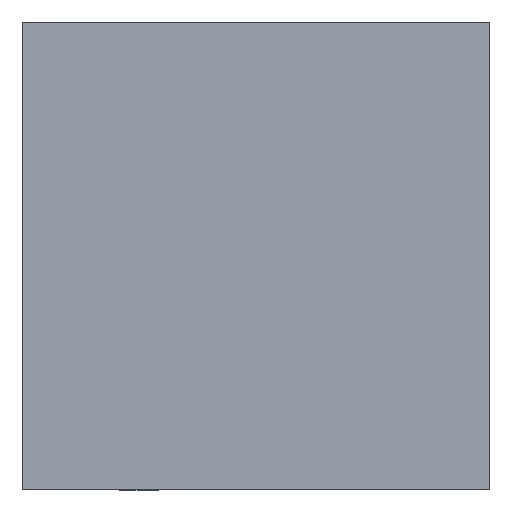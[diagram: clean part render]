
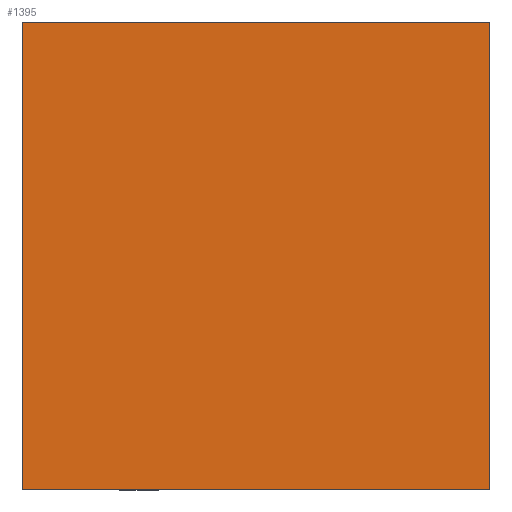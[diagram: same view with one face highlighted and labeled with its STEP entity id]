
A CAD part, top view. The second image highlights one B-rep face of the part: STEP entity #1395.
In plain terms, the highlighted planar face has unit normal (0, 0, 1).
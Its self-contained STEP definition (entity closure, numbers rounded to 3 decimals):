
#85 = DIRECTION ( 'NONE',  ( 0., 0., 1. ) ) ;
#105 = CARTESIAN_POINT ( 'NONE',  ( -0.549, 3.351, 2.873 ) ) ;
#151 = VERTEX_POINT ( 'NONE', #3339 ) ;
#187 = CARTESIAN_POINT ( 'NONE',  ( 2.451, 3.351, 2.873 ) ) ;
#218 = VECTOR ( 'NONE', #742, 1000. ) ;
#286 = ORIENTED_EDGE ( 'NONE', *, *, #807, .T. ) ;
#419 = AXIS2_PLACEMENT_3D ( 'NONE', #105, #85, #1933 ) ;
#457 = EDGE_CURVE ( 'Defeatured_0_10+Defeatured_0_5+Defeatured_0_8+Defeatured_0_6', #151, #2781, #1945, .T. ) ;
#591 = ORIENTED_EDGE ( 'NONE', *, *, #1230, .T. ) ;
#742 = DIRECTION ( 'NONE',  ( 0., 1., 0. ) ) ;
#803 = DIRECTION ( 'NONE',  ( 1., 0., 0. ) ) ;
#807 = EDGE_CURVE ( 'Defeatured_0_10+Defeatured_0_6+Defeatured_0_5+Defeatured_0_7', #2781, #2528, #3289, .T. ) ;
#1008 = VECTOR ( 'NONE', #2596, 1000. ) ;
#1230 = EDGE_CURVE ( 'Defeatured_0_10+Defeatured_0_8+Defeatured_0_7+Defeatured_0_5', #1969, #151, #3404, .T. ) ;
#1241 = CARTESIAN_POINT ( 'NONE',  ( -0.549, 3.351, 2.873 ) ) ;
#1261 = EDGE_LOOP ( 'NONE', ( #1399, #286, #1967, #591 ) ) ;
#1395 = ADVANCED_FACE ( 'Defeatured_0_10', ( #2770 ), #2092, .T. ) ;
#1399 = ORIENTED_EDGE ( 'NONE', *, *, #457, .T. ) ;
#1483 = CARTESIAN_POINT ( 'NONE',  ( -0.549, 3.351, 2.873 ) ) ;
#1933 = DIRECTION ( 'NONE',  ( 1., 0., 0. ) ) ;
#1945 = LINE ( 'NONE', #1241, #1008 ) ;
#1967 = ORIENTED_EDGE ( 'NONE', *, *, #3112, .T. ) ;
#1969 = VERTEX_POINT ( 'NONE', #187 ) ;
#2092 = PLANE ( 'NONE',  #419 ) ;
#2259 = CARTESIAN_POINT ( 'NONE',  ( -0.549, 0.351, 2.873 ) ) ;
#2297 = LINE ( 'NONE', #3138, #218 ) ;
#2528 = VERTEX_POINT ( 'NONE', #3423 ) ;
#2596 = DIRECTION ( 'NONE',  ( 0., -1., 0. ) ) ;
#2622 = VECTOR ( 'NONE', #2877, 1000. ) ;
#2770 = FACE_OUTER_BOUND ( 'NONE', #1261, .T. ) ;
#2781 = VERTEX_POINT ( 'NONE', #2259 ) ;
#2877 = DIRECTION ( 'NONE',  ( -1., 0., 0. ) ) ;
#3112 = EDGE_CURVE ( 'Defeatured_0_10+Defeatured_0_7+Defeatured_0_6+Defeatured_0_8', #2528, #1969, #2297, .T. ) ;
#3138 = CARTESIAN_POINT ( 'NONE',  ( 2.451, 3.351, 2.873 ) ) ;
#3208 = CARTESIAN_POINT ( 'NONE',  ( -0.549, 0.351, 2.873 ) ) ;
#3289 = LINE ( 'NONE', #3208, #3323 ) ;
#3323 = VECTOR ( 'NONE', #803, 1000. ) ;
#3339 = CARTESIAN_POINT ( 'NONE',  ( -0.549, 3.351, 2.873 ) ) ;
#3404 = LINE ( 'NONE', #1483, #2622 ) ;
#3423 = CARTESIAN_POINT ( 'NONE',  ( 2.451, 0.351, 2.873 ) ) ;
